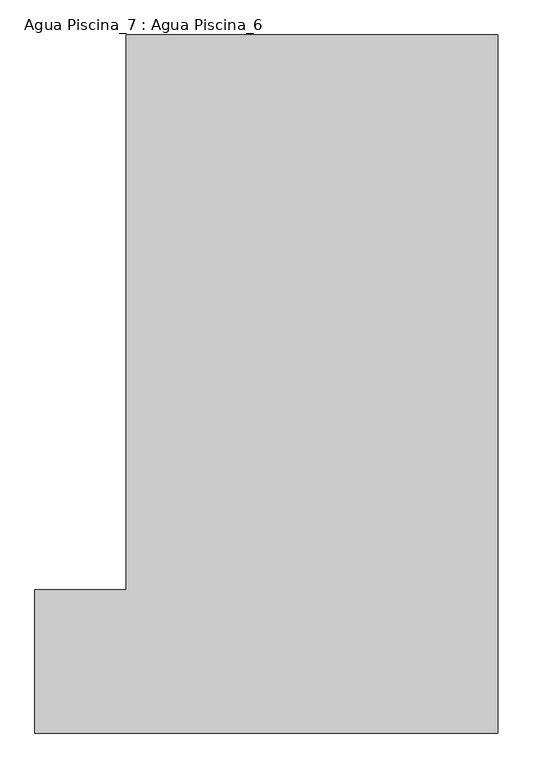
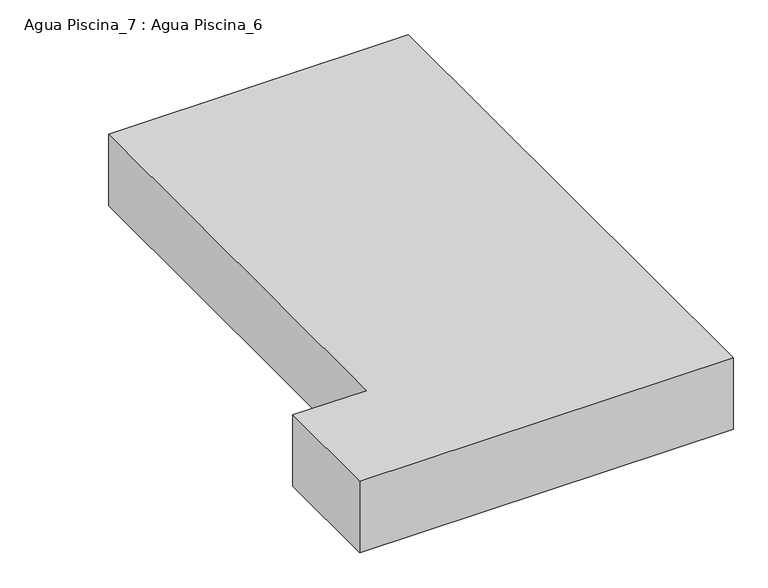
"""IFC4 building model written with IfcOpenShell, lengths in millimetres: proxy geometry, Agua Piscina_7 : Agua Piscina_6."""

from ifc_helpers import new_model, si_unit, frame, origin, place, context, project, spatial, polyline, outline, extrude, source, transform, mapped, element, save


def agua_piscina_7_agua_piscina_6_53fddf8e(model_context):
    return source(origin(), model_context, "Body", "SweptSolid", [
        extrude(outline(polyline([(13452.9215326, -26248.6773942), (14572.9215326, -26248.6773942), (14572.9215326, -19448.6773942), (19132.9178093, -19448.6773942), (19132.9178093, -28008.6736709), (13452.9215326, -28008.6736709), (13452.9215326, -26248.6773942)])), frame((0.0, 0.0, 12878.9496094), z_axis=(0.0, 0.0, 1.0), x_axis=(1.0, 0.0, 0.0)), (0.0, 0.0, 1.0), 1151.0503906),
    ])


if __name__ == "__main__":
    model = new_model("IFC4")
    model_context = context("Model", 3, world=origin())
    ifc_project = project(units=[si_unit("LENGTHUNIT", "METRE", prefix="MILLI")], contexts=[model_context])
    site = spatial("IfcSite", under=ifc_project)
    building = spatial("IfcBuilding", under=site)
    placement = place(None, origin())
    agua_piscina_7_agua_piscina_6_shape = agua_piscina_7_agua_piscina_6_53fddf8e(model_context)
    element("IfcBuildingElementProxy", 1, Name="Agua Piscina_7 : Agua Piscina_6", ObjectType="Agua Piscina_7 : Agua Piscina_6", at=placement, inside=building, context=model_context, shape_type="MappedRepresentation", body=[
        mapped(agua_piscina_7_agua_piscina_6_shape, transform((0.0, 0.0, 0.0), x_axis=(1.0, 0.0, 0.0), y_axis=(0.0, 1.0, 0.0), z_axis=(0.0, 0.0, 1.0))),
    ])
    save(model, "model.ifc")
